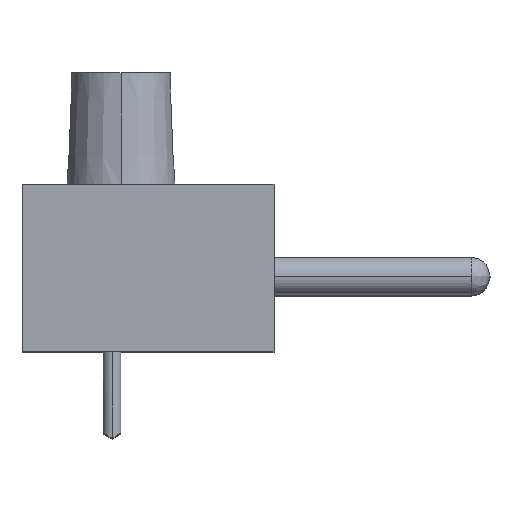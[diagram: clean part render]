
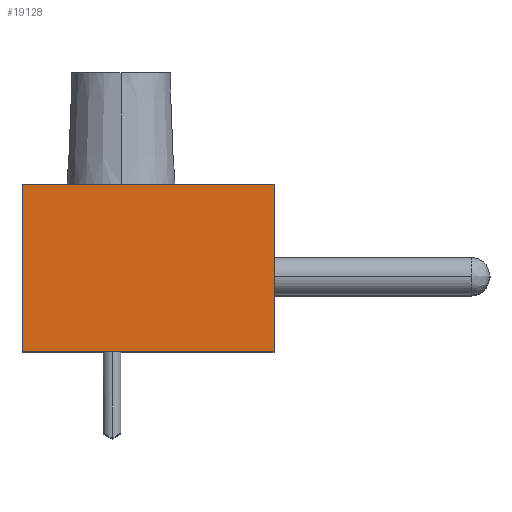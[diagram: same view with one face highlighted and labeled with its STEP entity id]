
A CAD part, top view. The second image highlights one B-rep face of the part: STEP entity #19128.
In plain terms, the highlighted planar face has unit normal (0, 0, 1).
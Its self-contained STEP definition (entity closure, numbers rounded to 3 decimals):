
#13178 = CARTESIAN_POINT ( 'NONE',  ( -7., 0., 0. ) ) ;
#13272 = DIRECTION ( 'NONE',  ( 1., 0., 0. ) ) ;
#13273 = VECTOR ( 'NONE', #13272, 1000. ) ;
#13274 = CARTESIAN_POINT ( 'NONE',  ( -7., 0., 0. ) ) ;
#13275 = LINE ( 'NONE', #13274, #13273 ) ;
#13294 = CARTESIAN_POINT ( 'NONE',  ( 7., 0., 0. ) ) ;
#14301 = DIRECTION ( 'NONE',  ( 0., 1., 0. ) ) ;
#14302 = VECTOR ( 'NONE', #14301, 1000. ) ;
#14303 = CARTESIAN_POINT ( 'NONE',  ( 7., 9.3, 0. ) ) ;
#14304 = LINE ( 'NONE', #14303, #14302 ) ;
#14333 = CARTESIAN_POINT ( 'NONE',  ( -7., 9.3, 0. ) ) ;
#14334 = DIRECTION ( 'NONE',  ( 1., 0., 0. ) ) ;
#14335 = DIRECTION ( 'NONE',  ( 0., 0., 1. ) ) ;
#14336 = CARTESIAN_POINT ( 'NONE',  ( -7., 9.3, 0. ) ) ;
#14337 = AXIS2_PLACEMENT_3D ( 'NONE', #14336, #14335, #14334 ) ;
#14338 = PLANE ( 'NONE',  #14337 ) ;
#14354 = FACE_OUTER_BOUND ( 'NONE', #19131, .T. ) ;
#14355 = CARTESIAN_POINT ( 'NONE',  ( 7., 9.3, 0. ) ) ;
#14361 = DIRECTION ( 'NONE',  ( 0., -1., 0. ) ) ;
#14362 = VECTOR ( 'NONE', #14361, 1000. ) ;
#14363 = CARTESIAN_POINT ( 'NONE',  ( -7., 0., 0. ) ) ;
#14364 = LINE ( 'NONE', #14363, #14362 ) ;
#14365 = DIRECTION ( 'NONE',  ( -1., 0., 0. ) ) ;
#14366 = VECTOR ( 'NONE', #14365, 1000. ) ;
#14367 = CARTESIAN_POINT ( 'NONE',  ( -7., 9.3, 0. ) ) ;
#14368 = LINE ( 'NONE', #14367, #14366 ) ;
#18690 = VERTEX_POINT ( 'NONE', #13178 ) ;
#18713 = EDGE_CURVE ( 'NONE', #18690, #18727, #13275, .T. ) ;
#18727 = VERTEX_POINT ( 'NONE', #13294 ) ;
#19122 = EDGE_CURVE ( 'NONE', #18727, #19126, #14304, .T. ) ;
#19126 = VERTEX_POINT ( 'NONE', #14355 ) ;
#19128 = ADVANCED_FACE ( 'NONE', ( #14354 ), #14338, .T. ) ;
#19129 = VERTEX_POINT ( 'NONE', #14333 ) ;
#19130 = ORIENTED_EDGE ( 'NONE', *, *, #19135, .T. ) ;
#19131 = EDGE_LOOP ( 'NONE', ( #19132, #19130, #19139, #19148 ) ) ;
#19132 = ORIENTED_EDGE ( 'NONE', *, *, #19122, .T. ) ;
#19135 = EDGE_CURVE ( 'NONE', #19126, #19129, #14368, .T. ) ;
#19139 = ORIENTED_EDGE ( 'NONE', *, *, #19140, .T. ) ;
#19140 = EDGE_CURVE ( 'NONE', #19129, #18690, #14364, .T. ) ;
#19148 = ORIENTED_EDGE ( 'NONE', *, *, #18713, .T. ) ;
